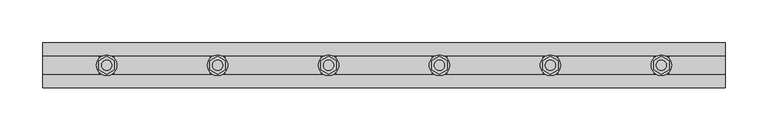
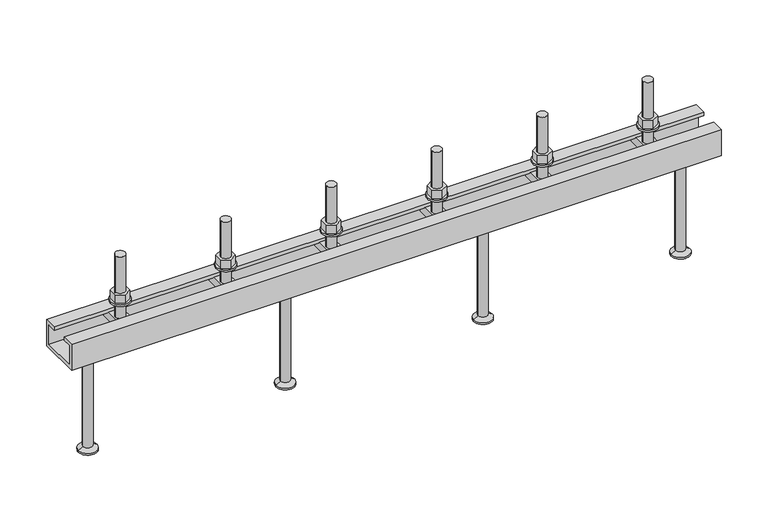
"""IFC4 building model written with IfcOpenShell, lengths in millimetres: fastener geometry, JTA-K JORDAHL® AnchorChannels : JTA-K L=800 mm."""

from ifc_helpers import new_model, si_unit, point, frame, frame_2d, origin, place, context, project, spatial, polyline, circle_curve, trimmed, segment, composite_curve, outline, extrude, source, transform, mapped, element, save
from ifc_brep_helpers import plane_surface, cylinder_surface, revolved_surface, advanced_brep


def fastener_df0cfee4(model_context):
    return source(origin(), model_context, "Body", "SolidModel", [
        extrude(outline(polyline([(595.0, -10.3923048), (586.0, -5.1961524), (586.0, 5.1961524), (595.0, 10.3923048), (604.0, 5.1961524), (604.0, -5.1961524), (595.0, -10.3923048)]), holes=[composite_curve([segment(trimmed(circle_curve(frame_2d((595.0, 0.0)), 6.0), [point((589.0, 0.0))], [point((601.0, 0.0))], True, "CARTESIAN"), True, "CONTINUOUS"), segment(trimmed(circle_curve(frame_2d((595.0, 0.0)), 6.0), [point((601.0, 0.0))], [point((589.0, 0.0))], True, "CARTESIAN"), True, "CONTINUOUS")], self_intersect=False)]), frame((0.0, 0.0, 17.5), z_axis=(0.0, 0.0, 1.0), x_axis=(1.0, 0.0, 0.0)), (0.0, 0.0, 1.0), 10.8),
        extrude(outline(composite_curve([segment(trimmed(circle_curve(frame_2d((595.0, 0.0)), 12.0), [point((583.0, 0.0))], [point((607.0, 0.0))], False, "CARTESIAN"), True, "CONTINUOUS"), segment(trimmed(circle_curve(frame_2d((595.0, 0.0)), 12.0), [point((607.0, 0.0))], [point((583.0, 0.0))], False, "CARTESIAN"), True, "CONTINUOUS")], self_intersect=False), holes=[composite_curve([segment(trimmed(circle_curve(frame_2d((595.0, 0.0)), 6.5), [point((588.5, 0.0))], [point((601.5, 0.0))], True, "CARTESIAN"), True, "CONTINUOUS"), segment(trimmed(circle_curve(frame_2d((595.0, 0.0)), 6.5), [point((601.5, 0.0))], [point((588.5, 0.0))], True, "CARTESIAN"), True, "CONTINUOUS")], self_intersect=False)]), frame((0.0, 0.0, 15.0), z_axis=(0.0, 0.0, 1.0), x_axis=(1.0, 0.0, 0.0)), (0.0, 0.0, 1.0), 2.5),
        extrude(outline(polyline([(465.0, -10.3923048), (456.0, -5.1961524), (456.0, 5.1961524), (465.0, 10.3923048), (474.0, 5.1961524), (474.0, -5.1961524), (465.0, -10.3923048)]), holes=[composite_curve([segment(trimmed(circle_curve(frame_2d((465.0, 0.0)), 6.0), [point((459.0, 0.0))], [point((471.0, 0.0))], True, "CARTESIAN"), True, "CONTINUOUS"), segment(trimmed(circle_curve(frame_2d((465.0, 0.0)), 6.0), [point((471.0, 0.0))], [point((459.0, 0.0))], True, "CARTESIAN"), True, "CONTINUOUS")], self_intersect=False)]), frame((0.0, 0.0, 17.5), z_axis=(0.0, 0.0, 1.0), x_axis=(1.0, 0.0, 0.0)), (0.0, 0.0, 1.0), 10.8),
        extrude(outline(composite_curve([segment(trimmed(circle_curve(frame_2d((465.0, 0.0)), 12.0), [point((453.0, 0.0))], [point((477.0, 0.0))], False, "CARTESIAN"), True, "CONTINUOUS"), segment(trimmed(circle_curve(frame_2d((465.0, 0.0)), 12.0), [point((477.0, 0.0))], [point((453.0, 0.0))], False, "CARTESIAN"), True, "CONTINUOUS")], self_intersect=False), holes=[composite_curve([segment(trimmed(circle_curve(frame_2d((465.0, 0.0)), 6.5), [point((458.5, 0.0))], [point((471.5, 0.0))], True, "CARTESIAN"), True, "CONTINUOUS"), segment(trimmed(circle_curve(frame_2d((465.0, 0.0)), 6.5), [point((471.5, 0.0))], [point((458.5, 0.0))], True, "CARTESIAN"), True, "CONTINUOUS")], self_intersect=False)]), frame((0.0, 0.0, 15.0), z_axis=(0.0, 0.0, 1.0), x_axis=(1.0, 0.0, 0.0)), (0.0, 0.0, 1.0), 2.5),
        extrude(outline(polyline([(335.0, -10.3923048), (326.0, -5.1961524), (326.0, 5.1961524), (335.0, 10.3923048), (344.0, 5.1961524), (344.0, -5.1961524), (335.0, -10.3923048)]), holes=[composite_curve([segment(trimmed(circle_curve(frame_2d((335.0, 0.0)), 6.0), [point((329.0, 0.0))], [point((341.0, 0.0))], True, "CARTESIAN"), True, "CONTINUOUS"), segment(trimmed(circle_curve(frame_2d((335.0, 0.0)), 6.0), [point((341.0, 0.0))], [point((329.0, 0.0))], True, "CARTESIAN"), True, "CONTINUOUS")], self_intersect=False)]), frame((0.0, 0.0, 17.5), z_axis=(0.0, 0.0, 1.0), x_axis=(1.0, 0.0, 0.0)), (0.0, 0.0, 1.0), 10.8),
        extrude(outline(composite_curve([segment(trimmed(circle_curve(frame_2d((335.0, 0.0)), 12.0), [point((323.0, 0.0))], [point((347.0, 0.0))], False, "CARTESIAN"), True, "CONTINUOUS"), segment(trimmed(circle_curve(frame_2d((335.0, 0.0)), 12.0), [point((347.0, 0.0))], [point((323.0, 0.0))], False, "CARTESIAN"), True, "CONTINUOUS")], self_intersect=False), holes=[composite_curve([segment(trimmed(circle_curve(frame_2d((335.0, 0.0)), 6.5), [point((328.5, 0.0))], [point((341.5, 0.0))], True, "CARTESIAN"), True, "CONTINUOUS"), segment(trimmed(circle_curve(frame_2d((335.0, 0.0)), 6.5), [point((341.5, 0.0))], [point((328.5, 0.0))], True, "CARTESIAN"), True, "CONTINUOUS")], self_intersect=False)]), frame((0.0, 0.0, 15.0), z_axis=(0.0, 0.0, 1.0), x_axis=(1.0, 0.0, 0.0)), (0.0, 0.0, 1.0), 2.5),
        extrude(outline(polyline([(205.0, -10.3923048), (196.0, -5.1961524), (196.0, 5.1961524), (205.0, 10.3923048), (214.0, 5.1961524), (214.0, -5.1961524), (205.0, -10.3923048)]), holes=[composite_curve([segment(trimmed(circle_curve(frame_2d((205.0, 0.0)), 6.0), [point((199.0, 0.0))], [point((211.0, 0.0))], True, "CARTESIAN"), True, "CONTINUOUS"), segment(trimmed(circle_curve(frame_2d((205.0, 0.0)), 6.0), [point((211.0, 0.0))], [point((199.0, 0.0))], True, "CARTESIAN"), True, "CONTINUOUS")], self_intersect=False)]), frame((0.0, 0.0, 17.5), z_axis=(0.0, 0.0, 1.0), x_axis=(1.0, 0.0, 0.0)), (0.0, 0.0, 1.0), 10.8),
        extrude(outline(composite_curve([segment(trimmed(circle_curve(frame_2d((205.0, 0.0)), 12.0), [point((193.0, 0.0))], [point((217.0, 0.0))], False, "CARTESIAN"), True, "CONTINUOUS"), segment(trimmed(circle_curve(frame_2d((205.0, 0.0)), 12.0), [point((217.0, 0.0))], [point((193.0, 0.0))], False, "CARTESIAN"), True, "CONTINUOUS")], self_intersect=False), holes=[composite_curve([segment(trimmed(circle_curve(frame_2d((205.0, 0.0)), 6.5), [point((198.5, 0.0))], [point((211.5, 0.0))], True, "CARTESIAN"), True, "CONTINUOUS"), segment(trimmed(circle_curve(frame_2d((205.0, 0.0)), 6.5), [point((211.5, 0.0))], [point((198.5, 0.0))], True, "CARTESIAN"), True, "CONTINUOUS")], self_intersect=False)]), frame((0.0, 0.0, 15.0), z_axis=(0.0, 0.0, 1.0), x_axis=(1.0, 0.0, 0.0)), (0.0, 0.0, 1.0), 2.5),
        advanced_brep(
        [(603.5, -20.7, -4.5), (603.5, -20.7, -14.5), (603.5, 20.7, -14.5), (603.5, 20.7, -4.5), (586.5, -20.7, -4.5), (586.5, 20.7, -4.5), (586.5, 20.7, -14.5), (586.5, -20.7, -14.5), (601.0, 0.0, -4.5), (589.0, 0.0, -4.5), (589.0, 0.0, 75.5), (601.0, 0.0, 75.5)],
        [
            (0, 1),
            (1, 2),
            (2, 3),
            (3, 0),
            (4, 5),
            (5, 6),
            (6, 7),
            (7, 4),
            (3, 5),
            (4, 0),
            (8, 9, circle_curve(frame((595.0, 0.0, -4.5), z_axis=(0.0, 0.0, -1.0), x_axis=(1.0, 0.0, 0.0)), 6.0)),
            (9, 8, circle_curve(frame((595.0, 0.0, -4.5), z_axis=(0.0, 0.0, -1.0), x_axis=(1.0, 0.0, 0.0)), 6.0)),
            (2, 6),
            (1, 7),
            (10, 11, circle_curve(frame((595.0, 0.0, 75.5), z_axis=(0.0, 0.0, 1.0), x_axis=(1.0, 0.0, 0.0)), 6.0)),
            (11, 10, circle_curve(frame((595.0, 0.0, 75.5), z_axis=(0.0, 0.0, 1.0), x_axis=(1.0, 0.0, 0.0)), 6.0)),
            (11, 8),
            (9, 10),
        ],
        [
            plane_surface(frame((603.5, 20.7, -4.5), z_axis=(1.0, 0.0, 0.0), x_axis=(0.0, 1.0, 0.0))),
            plane_surface(frame((586.5, 20.7, -4.5), z_axis=(-1.0, 0.0, 0.0), x_axis=(0.0, -1.0, 0.0))),
            plane_surface(frame((603.5, -20.7, -4.5), z_axis=(0.0, 0.0, 1.0), x_axis=(-1.0, 0.0, 0.0))),
            plane_surface(frame((603.5, 20.7, -4.5), z_axis=(0.0, 1.0, 0.0), x_axis=(-1.0, 0.0, 0.0))),
            plane_surface(frame((603.5, 20.7, -14.5), z_axis=(0.0, 0.0, -1.0), x_axis=(-1.0, 0.0, 0.0))),
            plane_surface(frame((603.5, -20.7, -14.5), z_axis=(0.0, -1.0, 0.0), x_axis=(-1.0, 0.0, 0.0))),
            plane_surface(frame((601.0, 0.0, 75.5), z_axis=(0.0, 0.0, 1.0), x_axis=(0.0, -1.0, 0.0))),
            cylinder_surface(frame((595.0, 0.0, -4.5), z_axis=(0.0, 0.0, 1.0), x_axis=(1.0, 0.0, 0.0)), 6.0),
        ],
        [
            (0, [[1, 2, 3, 4]]),
            (1, [[5, 6, 7, 8]]),
            (2, [[9, -5, 10, -4], [11, 12]]),
            (3, [[13, -6, -9, -3]]),
            (4, [[14, -7, -13, -2]]),
            (5, [[-10, -8, -14, -1]]),
            (6, [[15, 16]]),
            (7, [[17, -12, 18, -16]]),
            (7, [[-18, -11, -17, -15]]),
        ],
    ),
        advanced_brep(
        [(473.5, -20.7, -4.5), (473.5, -20.7, -14.5), (473.5, 20.7, -14.5), (473.5, 20.7, -4.5), (456.5, -20.7, -4.5), (456.5, 20.7, -4.5), (456.5, 20.7, -14.5), (456.5, -20.7, -14.5), (471.0, 0.0, -4.5), (459.0, 0.0, -4.5), (459.0, 0.0, 75.5), (471.0, 0.0, 75.5)],
        [
            (0, 1),
            (1, 2),
            (2, 3),
            (3, 0),
            (4, 5),
            (5, 6),
            (6, 7),
            (7, 4),
            (3, 5),
            (4, 0),
            (8, 9, circle_curve(frame((465.0, 0.0, -4.5), z_axis=(0.0, 0.0, -1.0), x_axis=(1.0, 0.0, 0.0)), 6.0)),
            (9, 8, circle_curve(frame((465.0, 0.0, -4.5), z_axis=(0.0, 0.0, -1.0), x_axis=(1.0, 0.0, 0.0)), 6.0)),
            (2, 6),
            (1, 7),
            (10, 11, circle_curve(frame((465.0, 0.0, 75.5), z_axis=(0.0, 0.0, 1.0), x_axis=(1.0, 0.0, 0.0)), 6.0)),
            (11, 10, circle_curve(frame((465.0, 0.0, 75.5), z_axis=(0.0, 0.0, 1.0), x_axis=(1.0, 0.0, 0.0)), 6.0)),
            (11, 8),
            (9, 10),
        ],
        [
            plane_surface(frame((473.5, 20.7, -4.5), z_axis=(1.0, 0.0, 0.0), x_axis=(0.0, 1.0, 0.0))),
            plane_surface(frame((456.5, 20.7, -4.5), z_axis=(-1.0, 0.0, 0.0), x_axis=(0.0, -1.0, 0.0))),
            plane_surface(frame((473.5, -20.7, -4.5), z_axis=(0.0, 0.0, 1.0), x_axis=(-1.0, 0.0, 0.0))),
            plane_surface(frame((473.5, 20.7, -4.5), z_axis=(0.0, 1.0, 0.0), x_axis=(-1.0, 0.0, 0.0))),
            plane_surface(frame((473.5, 20.7, -14.5), z_axis=(0.0, 0.0, -1.0), x_axis=(-1.0, 0.0, 0.0))),
            plane_surface(frame((473.5, -20.7, -14.5), z_axis=(0.0, -1.0, 0.0), x_axis=(-1.0, 0.0, 0.0))),
            plane_surface(frame((471.0, 0.0, 75.5), z_axis=(0.0, 0.0, 1.0), x_axis=(0.0, -1.0, 0.0))),
            cylinder_surface(frame((465.0, 0.0, -4.5), z_axis=(0.0, 0.0, 1.0), x_axis=(1.0, 0.0, 0.0)), 6.0),
        ],
        [
            (0, [[1, 2, 3, 4]]),
            (1, [[5, 6, 7, 8]]),
            (2, [[9, -5, 10, -4], [11, 12]]),
            (3, [[13, -6, -9, -3]]),
            (4, [[14, -7, -13, -2]]),
            (5, [[-10, -8, -14, -1]]),
            (6, [[15, 16]]),
            (7, [[17, -12, 18, -16]]),
            (7, [[-18, -11, -17, -15]]),
        ],
    ),
        advanced_brep(
        [(343.5, -20.7, -4.5), (343.5, -20.7, -14.5), (343.5, 20.7, -14.5), (343.5, 20.7, -4.5), (326.5, -20.7, -4.5), (326.5, 20.7, -4.5), (326.5, 20.7, -14.5), (326.5, -20.7, -14.5), (341.0, 0.0, -4.5), (329.0, 0.0, -4.5), (329.0, 0.0, 75.5), (341.0, 0.0, 75.5)],
        [
            (0, 1),
            (1, 2),
            (2, 3),
            (3, 0),
            (4, 5),
            (5, 6),
            (6, 7),
            (7, 4),
            (3, 5),
            (4, 0),
            (8, 9, circle_curve(frame((335.0, 0.0, -4.5), z_axis=(0.0, 0.0, -1.0), x_axis=(1.0, 0.0, 0.0)), 6.0)),
            (9, 8, circle_curve(frame((335.0, 0.0, -4.5), z_axis=(0.0, 0.0, -1.0), x_axis=(1.0, 0.0, 0.0)), 6.0)),
            (2, 6),
            (1, 7),
            (10, 11, circle_curve(frame((335.0, 0.0, 75.5), z_axis=(0.0, 0.0, 1.0), x_axis=(1.0, 0.0, 0.0)), 6.0)),
            (11, 10, circle_curve(frame((335.0, 0.0, 75.5), z_axis=(0.0, 0.0, 1.0), x_axis=(1.0, 0.0, 0.0)), 6.0)),
            (11, 8),
            (9, 10),
        ],
        [
            plane_surface(frame((343.5, 20.7, -4.5), z_axis=(1.0, 0.0, 0.0), x_axis=(0.0, 1.0, 0.0))),
            plane_surface(frame((326.5, 20.7, -4.5), z_axis=(-1.0, 0.0, 0.0), x_axis=(0.0, -1.0, 0.0))),
            plane_surface(frame((343.5, -20.7, -4.5), z_axis=(0.0, 0.0, 1.0), x_axis=(-1.0, 0.0, 0.0))),
            plane_surface(frame((343.5, 20.7, -4.5), z_axis=(0.0, 1.0, 0.0), x_axis=(-1.0, 0.0, 0.0))),
            plane_surface(frame((343.5, 20.7, -14.5), z_axis=(0.0, 0.0, -1.0), x_axis=(-1.0, 0.0, 0.0))),
            plane_surface(frame((343.5, -20.7, -14.5), z_axis=(0.0, -1.0, 0.0), x_axis=(-1.0, 0.0, 0.0))),
            plane_surface(frame((341.0, 0.0, 75.5), z_axis=(0.0, 0.0, 1.0), x_axis=(0.0, -1.0, 0.0))),
            cylinder_surface(frame((335.0, 0.0, -4.5), z_axis=(0.0, 0.0, 1.0), x_axis=(1.0, 0.0, 0.0)), 6.0),
        ],
        [
            (0, [[1, 2, 3, 4]]),
            (1, [[5, 6, 7, 8]]),
            (2, [[9, -5, 10, -4], [11, 12]]),
            (3, [[13, -6, -9, -3]]),
            (4, [[14, -7, -13, -2]]),
            (5, [[-10, -8, -14, -1]]),
            (6, [[15, 16]]),
            (7, [[17, -12, 18, -16]]),
            (7, [[-18, -11, -17, -15]]),
        ],
    ),
        advanced_brep(
        [(213.5, -20.7, -4.5), (213.5, -20.7, -14.5), (213.5, 20.7, -14.5), (213.5, 20.7, -4.5), (196.5, -20.7, -4.5), (196.5, 20.7, -4.5), (196.5, 20.7, -14.5), (196.5, -20.7, -14.5), (211.0, 0.0, -4.5), (199.0, 0.0, -4.5), (199.0, 0.0, 75.5), (211.0, 0.0, 75.5)],
        [
            (0, 1),
            (1, 2),
            (2, 3),
            (3, 0),
            (4, 5),
            (5, 6),
            (6, 7),
            (7, 4),
            (3, 5),
            (4, 0),
            (8, 9, circle_curve(frame((205.0, 0.0, -4.5), z_axis=(0.0, 0.0, -1.0), x_axis=(1.0, 0.0, 0.0)), 6.0)),
            (9, 8, circle_curve(frame((205.0, 0.0, -4.5), z_axis=(0.0, 0.0, -1.0), x_axis=(1.0, 0.0, 0.0)), 6.0)),
            (2, 6),
            (1, 7),
            (10, 11, circle_curve(frame((205.0, 0.0, 75.5), z_axis=(0.0, 0.0, 1.0), x_axis=(1.0, 0.0, 0.0)), 6.0)),
            (11, 10, circle_curve(frame((205.0, 0.0, 75.5), z_axis=(0.0, 0.0, 1.0), x_axis=(1.0, 0.0, 0.0)), 6.0)),
            (11, 8),
            (9, 10),
        ],
        [
            plane_surface(frame((213.5, 20.7, -4.5), z_axis=(1.0, 0.0, 0.0), x_axis=(0.0, 1.0, 0.0))),
            plane_surface(frame((196.5, 20.7, -4.5), z_axis=(-1.0, 0.0, 0.0), x_axis=(0.0, -1.0, 0.0))),
            plane_surface(frame((213.5, -20.7, -4.5), z_axis=(0.0, 0.0, 1.0), x_axis=(-1.0, 0.0, 0.0))),
            plane_surface(frame((213.5, 20.7, -4.5), z_axis=(0.0, 1.0, 0.0), x_axis=(-1.0, 0.0, 0.0))),
            plane_surface(frame((213.5, 20.7, -14.5), z_axis=(0.0, 0.0, -1.0), x_axis=(-1.0, 0.0, 0.0))),
            plane_surface(frame((213.5, -20.7, -14.5), z_axis=(0.0, -1.0, 0.0), x_axis=(-1.0, 0.0, 0.0))),
            plane_surface(frame((211.0, 0.0, 75.5), z_axis=(0.0, 0.0, 1.0), x_axis=(0.0, -1.0, 0.0))),
            cylinder_surface(frame((205.0, 0.0, -4.5), z_axis=(0.0, 0.0, 1.0), x_axis=(1.0, 0.0, 0.0)), 6.0),
        ],
        [
            (0, [[1, 2, 3, 4]]),
            (1, [[5, 6, 7, 8]]),
            (2, [[9, -5, 10, -4], [11, 12]]),
            (3, [[13, -6, -9, -3]]),
            (4, [[14, -7, -13, -2]]),
            (5, [[-10, -8, -14, -1]]),
            (6, [[15, 16]]),
            (7, [[17, -12, 18, -16]]),
            (7, [[-18, -11, -17, -15]]),
        ],
    ),
        advanced_brep(
        [(521.6666667, 0.0, -34.0), (504.1666667, 0.0, -34.0), (539.1666667, 0.0, -34.0), (510.1666667, 0.0, -165.0), (521.6666667, 0.0, -165.0), (533.1666667, 0.0, -165.0), (510.1666667, 0.0, -163.0), (533.1666667, 0.0, -163.0), (515.8666667, 0.0, -159.7091035), (527.4666667, 0.0, -159.7091035), (515.8666667, 0.0, -37.0), (527.4666667, 0.0, -37.0)],
        [
            (0, 1),
            (1, 2, circle_curve(frame((521.6666667, 0.0, -34.0), z_axis=(0.0, 0.0, 1.0), x_axis=(1.0, 0.0, 0.0)), 17.5)),
            (2, 0),
            (2, 1, circle_curve(frame((521.6666667, 0.0, -34.0), z_axis=(0.0, 0.0, 1.0), x_axis=(1.0, 0.0, 0.0)), 17.5)),
            (3, 4),
            (4, 5),
            (5, 3, circle_curve(frame((521.6666667, 0.0, -165.0), z_axis=(0.0, 0.0, -1.0), x_axis=(1.0, 0.0, 0.0)), 11.5)),
            (3, 5, circle_curve(frame((521.6666667, 0.0, -165.0), z_axis=(0.0, 0.0, -1.0), x_axis=(1.0, 0.0, 0.0)), 11.5)),
            (6, 3),
            (5, 7),
            (7, 6, circle_curve(frame((521.6666667, 0.0, -163.0), z_axis=(0.0, 0.0, -1.0), x_axis=(1.0, 0.0, 0.0)), 11.5)),
            (6, 7, circle_curve(frame((521.6666667, 0.0, -163.0), z_axis=(0.0, 0.0, -1.0), x_axis=(1.0, 0.0, 0.0)), 11.5)),
            (8, 6),
            (7, 9),
            (9, 8, circle_curve(frame((521.6666667, 0.0, -159.7091035), z_axis=(0.0, 0.0, -1.0), x_axis=(1.0, 0.0, 0.0)), 5.8)),
            (8, 9, circle_curve(frame((521.6666667, 0.0, -159.7091035), z_axis=(0.0, 0.0, -1.0), x_axis=(1.0, 0.0, 0.0)), 5.8)),
            (10, 8),
            (9, 11),
            (11, 10, circle_curve(frame((521.6666667, 0.0, -37.0), z_axis=(0.0, 0.0, -1.0), x_axis=(1.0, 0.0, 0.0)), 5.8)),
            (10, 11, circle_curve(frame((521.6666667, 0.0, -37.0), z_axis=(0.0, 0.0, -1.0), x_axis=(1.0, 0.0, 0.0)), 5.8)),
            (1, 10),
            (11, 2),
        ],
        [
            plane_surface(frame((521.6666667, 0.0, -34.0), z_axis=(0.0, 0.0, 1.0), x_axis=(1.0, 0.0, 0.0))),
            plane_surface(frame((521.6666667, 0.0, -165.0), z_axis=(0.0, 0.0, -1.0), x_axis=(1.0, 0.0, 0.0))),
            cylinder_surface(frame((521.6666667, 0.0, 2345.3150031), z_axis=(0.0, 0.0, 1.0), x_axis=(1.0, 0.0, 0.0)), 11.5),
            revolved_surface(polyline([(533.1666667, 0.0, -163.0), (527.4666667, 0.0, -159.7091035)]), (521.6666667, 0.0, 2345.3150031), (0.0, 0.0, 1.0)),
            cylinder_surface(frame((521.6666667, 0.0, 2345.3150031), z_axis=(0.0, 0.0, 1.0), x_axis=(1.0, 0.0, 0.0)), 5.8),
            revolved_surface(polyline([(527.4666667, 0.0, -37.0), (539.1666667, 0.0, -34.0)]), (521.6666667, 0.0, 2345.3150031), (0.0, 0.0, 1.0)),
        ],
        [
            (0, [[1, 2, 3]]),
            (0, [[-3, 4, -1]]),
            (1, [[5, 6, 7]]),
            (1, [[-6, -5, 8]]),
            (2, [[9, -7, 10, 11]]),
            (2, [[-10, -8, -9, 12]]),
            (3, [[13, -11, 14, 15]]),
            (3, [[-14, -12, -13, 16]]),
            (4, [[17, -15, 18, 19]]),
            (4, [[-18, -16, -17, 20]]),
            (5, [[21, -19, 22, -2]]),
            (5, [[-22, -20, -21, -4]]),
        ],
    ),
        advanced_brep(
        [(278.3333333, 0.0, -34.0), (260.8333333, 0.0, -34.0), (295.8333333, 0.0, -34.0), (266.8333333, 0.0, -165.0), (278.3333333, 0.0, -165.0), (289.8333333, 0.0, -165.0), (266.8333333, 0.0, -163.0), (289.8333333, 0.0, -163.0), (272.5333333, 0.0, -159.7091035), (284.1333333, 0.0, -159.7091035), (272.5333333, 0.0, -37.0), (284.1333333, 0.0, -37.0)],
        [
            (0, 1),
            (1, 2, circle_curve(frame((278.3333333, 0.0, -34.0), z_axis=(0.0, 0.0, 1.0), x_axis=(1.0, 0.0, 0.0)), 17.5)),
            (2, 0),
            (2, 1, circle_curve(frame((278.3333333, 0.0, -34.0), z_axis=(0.0, 0.0, 1.0), x_axis=(1.0, 0.0, 0.0)), 17.5)),
            (3, 4),
            (4, 5),
            (5, 3, circle_curve(frame((278.3333333, 0.0, -165.0), z_axis=(0.0, 0.0, -1.0), x_axis=(1.0, 0.0, 0.0)), 11.5)),
            (3, 5, circle_curve(frame((278.3333333, 0.0, -165.0), z_axis=(0.0, 0.0, -1.0), x_axis=(1.0, 0.0, 0.0)), 11.5)),
            (6, 3),
            (5, 7),
            (7, 6, circle_curve(frame((278.3333333, 0.0, -163.0), z_axis=(0.0, 0.0, -1.0), x_axis=(1.0, 0.0, 0.0)), 11.5)),
            (6, 7, circle_curve(frame((278.3333333, 0.0, -163.0), z_axis=(0.0, 0.0, -1.0), x_axis=(1.0, 0.0, 0.0)), 11.5)),
            (8, 6),
            (7, 9),
            (9, 8, circle_curve(frame((278.3333333, 0.0, -159.7091035), z_axis=(0.0, 0.0, -1.0), x_axis=(1.0, 0.0, 0.0)), 5.8)),
            (8, 9, circle_curve(frame((278.3333333, 0.0, -159.7091035), z_axis=(0.0, 0.0, -1.0), x_axis=(1.0, 0.0, 0.0)), 5.8)),
            (10, 8),
            (9, 11),
            (11, 10, circle_curve(frame((278.3333333, 0.0, -37.0), z_axis=(0.0, 0.0, -1.0), x_axis=(1.0, 0.0, 0.0)), 5.8)),
            (10, 11, circle_curve(frame((278.3333333, 0.0, -37.0), z_axis=(0.0, 0.0, -1.0), x_axis=(1.0, 0.0, 0.0)), 5.8)),
            (1, 10),
            (11, 2),
        ],
        [
            plane_surface(frame((278.3333333, 0.0, -34.0), z_axis=(0.0, 0.0, 1.0), x_axis=(1.0, 0.0, 0.0))),
            plane_surface(frame((278.3333333, 0.0, -165.0), z_axis=(0.0, 0.0, -1.0), x_axis=(1.0, 0.0, 0.0))),
            cylinder_surface(frame((278.3333333, 0.0, 2345.3150031), z_axis=(0.0, 0.0, 1.0), x_axis=(1.0, 0.0, 0.0)), 11.5),
            revolved_surface(polyline([(289.8333333, 0.0, -163.0), (284.1333333, 0.0, -159.7091035)]), (278.3333333, 0.0, 2345.3150031), (0.0, 0.0, 1.0)),
            cylinder_surface(frame((278.3333333, 0.0, 2345.3150031), z_axis=(0.0, 0.0, 1.0), x_axis=(1.0, 0.0, 0.0)), 5.8),
            revolved_surface(polyline([(284.1333333, 0.0, -37.0), (295.8333333, 0.0, -34.0)]), (278.3333333, 0.0, 2345.3150031), (0.0, 0.0, 1.0)),
        ],
        [
            (0, [[1, 2, 3]]),
            (0, [[-3, 4, -1]]),
            (1, [[5, 6, 7]]),
            (1, [[-6, -5, 8]]),
            (2, [[9, -7, 10, 11]]),
            (2, [[-10, -8, -9, 12]]),
            (3, [[13, -11, 14, 15]]),
            (3, [[-14, -12, -13, 16]]),
            (4, [[17, -15, 18, 19]]),
            (4, [[-18, -16, -17, 20]]),
            (5, [[21, -19, 22, -2]]),
            (5, [[-22, -20, -21, -4]]),
        ],
    ),
        extrude(outline(polyline([(725.0, -10.3923048), (716.0, -5.1961524), (716.0, 5.1961524), (725.0, 10.3923048), (734.0, 5.1961524), (734.0, -5.1961524), (725.0, -10.3923048)]), holes=[composite_curve([segment(trimmed(circle_curve(frame_2d((725.0, 0.0)), 6.0), [point((719.0, 0.0))], [point((731.0, 0.0))], True, "CARTESIAN"), True, "CONTINUOUS"), segment(trimmed(circle_curve(frame_2d((725.0, 0.0)), 6.0), [point((731.0, 0.0))], [point((719.0, 0.0))], True, "CARTESIAN"), True, "CONTINUOUS")], self_intersect=False)]), frame((0.0, 0.0, 17.5), z_axis=(0.0, 0.0, 1.0), x_axis=(1.0, 0.0, 0.0)), (0.0, 0.0, 1.0), 10.8),
        extrude(outline(composite_curve([segment(trimmed(circle_curve(frame_2d((725.0, 0.0)), 12.0), [point((713.0, 0.0))], [point((737.0, 0.0))], False, "CARTESIAN"), True, "CONTINUOUS"), segment(trimmed(circle_curve(frame_2d((725.0, 0.0)), 12.0), [point((737.0, 0.0))], [point((713.0, 0.0))], False, "CARTESIAN"), True, "CONTINUOUS")], self_intersect=False), holes=[composite_curve([segment(trimmed(circle_curve(frame_2d((725.0, 0.0)), 6.5), [point((718.5, 0.0))], [point((731.5, 0.0))], True, "CARTESIAN"), True, "CONTINUOUS"), segment(trimmed(circle_curve(frame_2d((725.0, 0.0)), 6.5), [point((731.5, 0.0))], [point((718.5, 0.0))], True, "CARTESIAN"), True, "CONTINUOUS")], self_intersect=False)]), frame((0.0, 0.0, 15.0), z_axis=(0.0, 0.0, 1.0), x_axis=(1.0, 0.0, 0.0)), (0.0, 0.0, 1.0), 2.5),
        extrude(outline(polyline([(75.0, -10.3923048), (66.0, -5.1961524), (66.0, 5.1961524), (75.0, 10.3923048), (84.0, 5.1961524), (84.0, -5.1961524), (75.0, -10.3923048)]), holes=[composite_curve([segment(trimmed(circle_curve(frame_2d((75.0, 0.0)), 6.0), [point((69.0, 0.0))], [point((81.0, 0.0))], True, "CARTESIAN"), True, "CONTINUOUS"), segment(trimmed(circle_curve(frame_2d((75.0, 0.0)), 6.0), [point((81.0, 0.0))], [point((69.0, 0.0))], True, "CARTESIAN"), True, "CONTINUOUS")], self_intersect=False)]), frame((0.0, 0.0, 17.5), z_axis=(0.0, 0.0, 1.0), x_axis=(1.0, 0.0, 0.0)), (0.0, 0.0, 1.0), 10.8),
        extrude(outline(composite_curve([segment(trimmed(circle_curve(frame_2d((75.0, 0.0)), 12.0), [point((63.0, 0.0))], [point((87.0, 0.0))], False, "CARTESIAN"), True, "CONTINUOUS"), segment(trimmed(circle_curve(frame_2d((75.0, 0.0)), 12.0), [point((87.0, 0.0))], [point((63.0, 0.0))], False, "CARTESIAN"), True, "CONTINUOUS")], self_intersect=False), holes=[composite_curve([segment(trimmed(circle_curve(frame_2d((75.0, 0.0)), 6.5), [point((68.5, 0.0))], [point((81.5, 0.0))], True, "CARTESIAN"), True, "CONTINUOUS"), segment(trimmed(circle_curve(frame_2d((75.0, 0.0)), 6.5), [point((81.5, 0.0))], [point((68.5, 0.0))], True, "CARTESIAN"), True, "CONTINUOUS")], self_intersect=False)]), frame((0.0, 0.0, 15.0), z_axis=(0.0, 0.0, 1.0), x_axis=(1.0, 0.0, 0.0)), (0.0, 0.0, 1.0), 2.5),
        advanced_brep(
        [(733.5, -20.7, -4.5), (733.5, -20.7, -14.5), (733.5, 20.7, -14.5), (733.5, 20.7, -4.5), (716.5, -20.7, -4.5), (716.5, 20.7, -4.5), (716.5, 20.7, -14.5), (716.5, -20.7, -14.5), (731.0, 0.0, -4.5), (719.0, 0.0, -4.5), (719.0, 0.0, 75.5), (731.0, 0.0, 75.5)],
        [
            (0, 1),
            (1, 2),
            (2, 3),
            (3, 0),
            (4, 5),
            (5, 6),
            (6, 7),
            (7, 4),
            (3, 5),
            (4, 0),
            (8, 9, circle_curve(frame((725.0, 0.0, -4.5), z_axis=(0.0, 0.0, -1.0), x_axis=(1.0, 0.0, 0.0)), 6.0)),
            (9, 8, circle_curve(frame((725.0, 0.0, -4.5), z_axis=(0.0, 0.0, -1.0), x_axis=(1.0, 0.0, 0.0)), 6.0)),
            (2, 6),
            (1, 7),
            (10, 11, circle_curve(frame((725.0, 0.0, 75.5), z_axis=(0.0, 0.0, 1.0), x_axis=(1.0, 0.0, 0.0)), 6.0)),
            (11, 10, circle_curve(frame((725.0, 0.0, 75.5), z_axis=(0.0, 0.0, 1.0), x_axis=(1.0, 0.0, 0.0)), 6.0)),
            (11, 8),
            (9, 10),
        ],
        [
            plane_surface(frame((733.5, 20.7, -4.5), z_axis=(1.0, 0.0, 0.0), x_axis=(0.0, 1.0, 0.0))),
            plane_surface(frame((716.5, 20.7, -4.5), z_axis=(-1.0, 0.0, 0.0), x_axis=(0.0, -1.0, 0.0))),
            plane_surface(frame((733.5, -20.7, -4.5), z_axis=(0.0, 0.0, 1.0), x_axis=(-1.0, 0.0, 0.0))),
            plane_surface(frame((733.5, 20.7, -4.5), z_axis=(0.0, 1.0, 0.0), x_axis=(-1.0, 0.0, 0.0))),
            plane_surface(frame((733.5, 20.7, -14.5), z_axis=(0.0, 0.0, -1.0), x_axis=(-1.0, 0.0, 0.0))),
            plane_surface(frame((733.5, -20.7, -14.5), z_axis=(0.0, -1.0, 0.0), x_axis=(-1.0, 0.0, 0.0))),
            plane_surface(frame((731.0, 0.0, 75.5), z_axis=(0.0, 0.0, 1.0), x_axis=(0.0, -1.0, 0.0))),
            cylinder_surface(frame((725.0, 0.0, -4.5), z_axis=(0.0, 0.0, 1.0), x_axis=(1.0, 0.0, 0.0)), 6.0),
        ],
        [
            (0, [[1, 2, 3, 4]]),
            (1, [[5, 6, 7, 8]]),
            (2, [[9, -5, 10, -4], [11, 12]]),
            (3, [[13, -6, -9, -3]]),
            (4, [[14, -7, -13, -2]]),
            (5, [[-10, -8, -14, -1]]),
            (6, [[15, 16]]),
            (7, [[17, -12, 18, -16]]),
            (7, [[-18, -11, -17, -15]]),
        ],
    ),
        advanced_brep(
        [(83.5, -20.7, -4.5), (83.5, -20.7, -14.5), (83.5, 20.7, -14.5), (83.5, 20.7, -4.5), (66.5, -20.7, -4.5), (66.5, 20.7, -4.5), (66.5, 20.7, -14.5), (66.5, -20.7, -14.5), (81.0, 0.0, -4.5), (69.0, 0.0, -4.5), (69.0, 0.0, 75.5), (81.0, 0.0, 75.5)],
        [
            (0, 1),
            (1, 2),
            (2, 3),
            (3, 0),
            (4, 5),
            (5, 6),
            (6, 7),
            (7, 4),
            (3, 5),
            (4, 0),
            (8, 9, circle_curve(frame((75.0, 0.0, -4.5), z_axis=(0.0, 0.0, -1.0), x_axis=(1.0, 0.0, 0.0)), 6.0)),
            (9, 8, circle_curve(frame((75.0, 0.0, -4.5), z_axis=(0.0, 0.0, -1.0), x_axis=(1.0, 0.0, 0.0)), 6.0)),
            (2, 6),
            (1, 7),
            (10, 11, circle_curve(frame((75.0, 0.0, 75.5), z_axis=(0.0, 0.0, 1.0), x_axis=(1.0, 0.0, 0.0)), 6.0)),
            (11, 10, circle_curve(frame((75.0, 0.0, 75.5), z_axis=(0.0, 0.0, 1.0), x_axis=(1.0, 0.0, 0.0)), 6.0)),
            (11, 8),
            (9, 10),
        ],
        [
            plane_surface(frame((83.5, 20.7, -4.5), z_axis=(1.0, 0.0, 0.0), x_axis=(0.0, 1.0, 0.0))),
            plane_surface(frame((66.5, 20.7, -4.5), z_axis=(-1.0, 0.0, 0.0), x_axis=(0.0, -1.0, 0.0))),
            plane_surface(frame((83.5, -20.7, -4.5), z_axis=(0.0, 0.0, 1.0), x_axis=(-1.0, 0.0, 0.0))),
            plane_surface(frame((83.5, 20.7, -4.5), z_axis=(0.0, 1.0, 0.0), x_axis=(-1.0, 0.0, 0.0))),
            plane_surface(frame((83.5, 20.7, -14.5), z_axis=(0.0, 0.0, -1.0), x_axis=(-1.0, 0.0, 0.0))),
            plane_surface(frame((83.5, -20.7, -14.5), z_axis=(0.0, -1.0, 0.0), x_axis=(-1.0, 0.0, 0.0))),
            plane_surface(frame((81.0, 0.0, 75.5), z_axis=(0.0, 0.0, 1.0), x_axis=(0.0, -1.0, 0.0))),
            cylinder_surface(frame((75.0, 0.0, -4.5), z_axis=(0.0, 0.0, 1.0), x_axis=(1.0, 0.0, 0.0)), 6.0),
        ],
        [
            (0, [[1, 2, 3, 4]]),
            (1, [[5, 6, 7, 8]]),
            (2, [[9, -5, 10, -4], [11, 12]]),
            (3, [[13, -6, -9, -3]]),
            (4, [[14, -7, -13, -2]]),
            (5, [[-10, -8, -14, -1]]),
            (6, [[15, 16]]),
            (7, [[17, -12, 18, -16]]),
            (7, [[-18, -11, -17, -15]]),
        ],
    ),
        advanced_brep(
        [(765.0, 0.0, -34.0), (747.5, 0.0, -34.0), (782.5, 0.0, -34.0), (753.5, 0.0, -165.0), (765.0, 0.0, -165.0), (776.5, 0.0, -165.0), (753.5, 0.0, -163.0), (776.5, 0.0, -163.0), (759.2, 0.0, -159.7091035), (770.8, 0.0, -159.7091035), (759.2, 0.0, -37.0), (770.8, 0.0, -37.0)],
        [
            (0, 1),
            (1, 2, circle_curve(frame((765.0, 0.0, -34.0), z_axis=(0.0, 0.0, 1.0), x_axis=(1.0, 0.0, 0.0)), 17.5)),
            (2, 0),
            (2, 1, circle_curve(frame((765.0, 0.0, -34.0), z_axis=(0.0, 0.0, 1.0), x_axis=(1.0, 0.0, 0.0)), 17.5)),
            (3, 4),
            (4, 5),
            (5, 3, circle_curve(frame((765.0, 0.0, -165.0), z_axis=(0.0, 0.0, -1.0), x_axis=(1.0, 0.0, 0.0)), 11.5)),
            (3, 5, circle_curve(frame((765.0, 0.0, -165.0), z_axis=(0.0, 0.0, -1.0), x_axis=(1.0, 0.0, 0.0)), 11.5)),
            (6, 3),
            (5, 7),
            (7, 6, circle_curve(frame((765.0, 0.0, -163.0), z_axis=(0.0, 0.0, -1.0), x_axis=(1.0, 0.0, 0.0)), 11.5)),
            (6, 7, circle_curve(frame((765.0, 0.0, -163.0), z_axis=(0.0, 0.0, -1.0), x_axis=(1.0, 0.0, 0.0)), 11.5)),
            (8, 6),
            (7, 9),
            (9, 8, circle_curve(frame((765.0, 0.0, -159.7091035), z_axis=(0.0, 0.0, -1.0), x_axis=(1.0, 0.0, 0.0)), 5.8)),
            (8, 9, circle_curve(frame((765.0, 0.0, -159.7091035), z_axis=(0.0, 0.0, -1.0), x_axis=(1.0, 0.0, 0.0)), 5.8)),
            (10, 8),
            (9, 11),
            (11, 10, circle_curve(frame((765.0, 0.0, -37.0), z_axis=(0.0, 0.0, -1.0), x_axis=(1.0, 0.0, 0.0)), 5.8)),
            (10, 11, circle_curve(frame((765.0, 0.0, -37.0), z_axis=(0.0, 0.0, -1.0), x_axis=(1.0, 0.0, 0.0)), 5.8)),
            (1, 10),
            (11, 2),
        ],
        [
            plane_surface(frame((765.0, 0.0, -34.0), z_axis=(0.0, 0.0, 1.0), x_axis=(1.0, 0.0, 0.0))),
            plane_surface(frame((765.0, 0.0, -165.0), z_axis=(0.0, 0.0, -1.0), x_axis=(1.0, 0.0, 0.0))),
            cylinder_surface(frame((765.0, 0.0, 2345.3150031), z_axis=(0.0, 0.0, 1.0), x_axis=(1.0, 0.0, 0.0)), 11.5),
            revolved_surface(polyline([(776.5, 0.0, -163.0), (770.8, 0.0, -159.7091035)]), (765.0, 0.0, 2345.3150031), (0.0, 0.0, 1.0)),
            cylinder_surface(frame((765.0, 0.0, 2345.3150031), z_axis=(0.0, 0.0, 1.0), x_axis=(1.0, 0.0, 0.0)), 5.8),
            revolved_surface(polyline([(770.8, 0.0, -37.0), (782.5, 0.0, -34.0)]), (765.0, 0.0, 2345.3150031), (0.0, 0.0, 1.0)),
        ],
        [
            (0, [[1, 2, 3]]),
            (0, [[-3, 4, -1]]),
            (1, [[5, 6, 7]]),
            (1, [[-6, -5, 8]]),
            (2, [[9, -7, 10, 11]]),
            (2, [[-10, -8, -9, 12]]),
            (3, [[13, -11, 14, 15]]),
            (3, [[-14, -12, -13, 16]]),
            (4, [[17, -15, 18, 19]]),
            (4, [[-18, -16, -17, 20]]),
            (5, [[21, -19, 22, -2]]),
            (5, [[-22, -20, -21, -4]]),
        ],
    ),
        advanced_brep(
        [(35.0, 0.0, -34.0), (17.5, 0.0, -34.0), (52.5, 0.0, -34.0), (23.5, 0.0, -165.0), (35.0, 0.0, -165.0), (46.5, 0.0, -165.0), (23.5, 0.0, -163.0), (46.5, 0.0, -163.0), (29.2, 0.0, -159.7091035), (40.8, 0.0, -159.7091035), (29.2, 0.0, -37.0), (40.8, 0.0, -37.0)],
        [
            (0, 1),
            (1, 2, circle_curve(frame((35.0, 0.0, -34.0), z_axis=(0.0, 0.0, 1.0), x_axis=(1.0, 0.0, 0.0)), 17.5)),
            (2, 0),
            (2, 1, circle_curve(frame((35.0, 0.0, -34.0), z_axis=(0.0, 0.0, 1.0), x_axis=(1.0, 0.0, 0.0)), 17.5)),
            (3, 4),
            (4, 5),
            (5, 3, circle_curve(frame((35.0, 0.0, -165.0), z_axis=(0.0, 0.0, -1.0), x_axis=(1.0, 0.0, 0.0)), 11.5)),
            (3, 5, circle_curve(frame((35.0, 0.0, -165.0), z_axis=(0.0, 0.0, -1.0), x_axis=(1.0, 0.0, 0.0)), 11.5)),
            (6, 3),
            (5, 7),
            (7, 6, circle_curve(frame((35.0, 0.0, -163.0), z_axis=(0.0, 0.0, -1.0), x_axis=(1.0, 0.0, 0.0)), 11.5)),
            (6, 7, circle_curve(frame((35.0, 0.0, -163.0), z_axis=(0.0, 0.0, -1.0), x_axis=(1.0, 0.0, 0.0)), 11.5)),
            (8, 6),
            (7, 9),
            (9, 8, circle_curve(frame((35.0, 0.0, -159.7091035), z_axis=(0.0, 0.0, -1.0), x_axis=(1.0, 0.0, 0.0)), 5.8)),
            (8, 9, circle_curve(frame((35.0, 0.0, -159.7091035), z_axis=(0.0, 0.0, -1.0), x_axis=(1.0, 0.0, 0.0)), 5.8)),
            (10, 8),
            (9, 11),
            (11, 10, circle_curve(frame((35.0, 0.0, -37.0), z_axis=(0.0, 0.0, -1.0), x_axis=(1.0, 0.0, 0.0)), 5.8)),
            (10, 11, circle_curve(frame((35.0, 0.0, -37.0), z_axis=(0.0, 0.0, -1.0), x_axis=(1.0, 0.0, 0.0)), 5.8)),
            (1, 10),
            (11, 2),
        ],
        [
            plane_surface(frame((35.0, 0.0, -34.0), z_axis=(0.0, 0.0, 1.0), x_axis=(1.0, 0.0, 0.0))),
            plane_surface(frame((35.0, 0.0, -165.0), z_axis=(0.0, 0.0, -1.0), x_axis=(1.0, 0.0, 0.0))),
            cylinder_surface(frame((35.0, 0.0, 2345.3150031), z_axis=(0.0, 0.0, 1.0), x_axis=(1.0, 0.0, 0.0)), 11.5),
            revolved_surface(polyline([(46.5, 0.0, -163.0), (40.8, 0.0, -159.7091035)]), (35.0, 0.0, 2345.3150031), (0.0, 0.0, 1.0)),
            cylinder_surface(frame((35.0, 0.0, 2345.3150031), z_axis=(0.0, 0.0, 1.0), x_axis=(1.0, 0.0, 0.0)), 5.8),
            revolved_surface(polyline([(40.8, 0.0, -37.0), (52.5, 0.0, -34.0)]), (35.0, 0.0, 2345.3150031), (0.0, 0.0, 1.0)),
        ],
        [
            (0, [[1, 2, 3]]),
            (0, [[-3, 4, -1]]),
            (1, [[5, 6, 7]]),
            (1, [[-6, -5, 8]]),
            (2, [[9, -7, 10, 11]]),
            (2, [[-10, -8, -9, 12]]),
            (3, [[13, -11, 14, 15]]),
            (3, [[-14, -12, -13, 16]]),
            (4, [[17, -15, 18, 19]]),
            (4, [[-18, -16, -17, 20]]),
            (5, [[21, -19, 22, -2]]),
            (5, [[-22, -20, -21, -4]]),
        ],
    ),
        extrude(outline(polyline([(-26.5, 0.0), (-11.0, 0.0), (-11.0, -4.5), (-22.0, -4.5), (-22.0, -29.5), (22.0, -29.5), (22.0, -4.5), (11.0, -4.5), (11.0, 0.0), (26.5, 0.0), (26.5, -34.0), (-26.5, -34.0), (-26.5, 0.0)])), frame((0.0, 0.0, 0.0), z_axis=(1.0, 0.0, 0.0), x_axis=(0.0, 1.0, 0.0)), (0.0, 0.0, 1.0), 800.0),
    ])


if __name__ == "__main__":
    model = new_model("IFC4")
    model_context = context("Model", 3, world=origin())
    ifc_project = project(units=[si_unit("LENGTHUNIT", "METRE", prefix="MILLI")], contexts=[model_context])
    site = spatial("IfcSite", under=ifc_project)
    building = spatial("IfcBuilding", under=site)
    placement = place(None, origin())
    fastener_shape = fastener_df0cfee4(model_context)
    element("IfcFastener", 1, ObjectType="JTA-K JORDAHL® AnchorChannels : JTA-K L=800 mm", at=placement, inside=building, context=model_context, shape_type="MappedRepresentation", body=[
        mapped(fastener_shape, transform((0.0, 0.0, 0.0), x_axis=(1.0, 0.0, 0.0), y_axis=(0.0, 1.0, 0.0), z_axis=(0.0, 0.0, 1.0))),
    ])
    save(model, "model.ifc")
